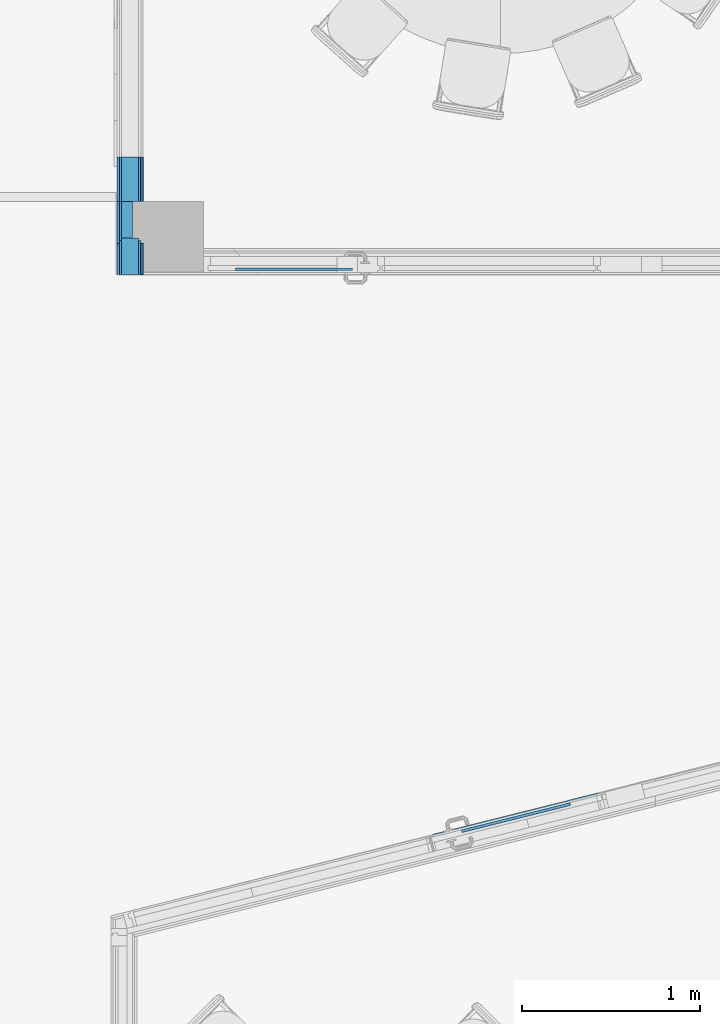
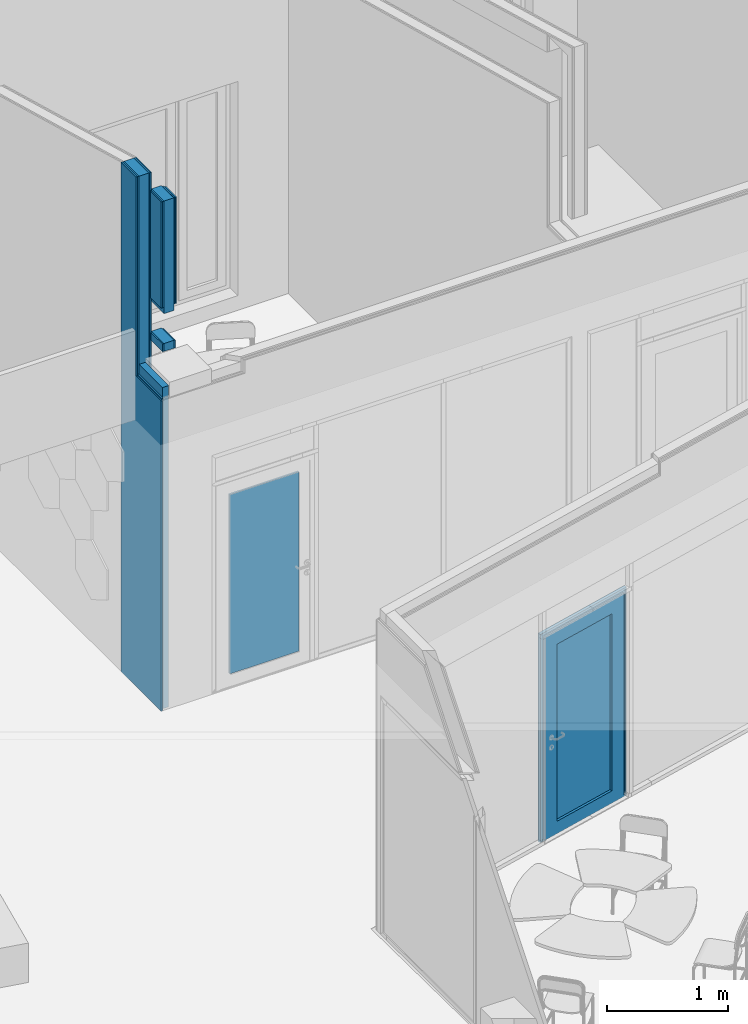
# One storey, part 72 of 153: 8 building element parts, 5 elements without a shape of their own.
"""IFC2X3 building model written with IfcOpenShell, lengths in millimetres."""

from ifc_helpers import new_model, entity, si_unit, converted_unit, derived_unit, money_unit, direction, frame, origin_with_axes, place, context, subcontext, project, spatial, faceted_brep, material, type_object, element, aggregate, save


model = new_model("IFC2X3")

# Units and contexts
model_context = context("Model", 3, precision=0.01, world=origin_with_axes(), true_north=direction((0.0, 1.0)))
body_context = subcontext(model_context, "Body", "Model", "MODEL_VIEW")
ifc_project = project(units=[si_unit("LENGTHUNIT", "METRE", prefix="MILLI"), si_unit("AREAUNIT", "SQUARE_METRE"), si_unit("VOLUMEUNIT", "CUBIC_METRE"), converted_unit("PLANEANGLEUNIT", "DEGREE", entity("IfcPlaneAngleMeasure", 0.0174532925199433), si_unit("PLANEANGLEUNIT", "RADIAN"), dimensions=[0, 0, 0, 0, 0, 0, 0]), money_unit("EUR"), converted_unit("TIMEUNIT", "Year", entity("IfcTimeMeasure", 31557600.0), si_unit("TIMEUNIT", "SECOND"), dimensions=[0, 0, 1, 0, 0, 0, 0]), si_unit("MASSUNIT", "GRAM", prefix="KILO"), si_unit("THERMODYNAMICTEMPERATUREUNIT", "DEGREE_CELSIUS"), si_unit("LUMINOUSINTENSITYUNIT", "LUMEN"), si_unit("ENERGYUNIT", "JOULE", prefix="MEGA"), derived_unit("THERMALCONDUCTANCEUNIT", [(si_unit("POWERUNIT", "WATT"), 1), (si_unit("LENGTHUNIT", "METRE"), -1), (si_unit("THERMODYNAMICTEMPERATUREUNIT", "KELVIN"), -1)]), derived_unit("SPECIFICHEATCAPACITYUNIT", [(si_unit("ENERGYUNIT", "JOULE"), 1), (si_unit("MASSUNIT", "GRAM", prefix="KILO"), -1), (si_unit("THERMODYNAMICTEMPERATUREUNIT", "KELVIN"), -1)]), derived_unit("MASSDENSITYUNIT", [(si_unit("MASSUNIT", "GRAM", prefix="KILO"), 1), (si_unit("VOLUMEUNIT", "CUBIC_METRE"), -1)])], contexts=[model_context])

# Site, building, storey
site_placement = place(None, frame((0.0, 0.0, 8650.0), z_axis=(0.0, 0.0, 1.0), x_axis=(1.0, 0.0, 0.0)))
site = spatial("IfcSite", under=ifc_project, at=site_placement, Name="43301:001:0844", CompositionType="ELEMENT")
building_placement = place(site_placement, origin_with_axes())
building = spatial("IfcBuilding", under=site, at=building_placement, Name="Kuressaare Ametikooli tuulikute mehaanikute õppekorpus", CompositionType="ELEMENT")
storey_placement = place(building_placement, frame((0.0, 0.0, 4100.0), z_axis=(0.0, 0.0, 1.0), x_axis=(1.0, 0.0, 0.0)))
storey = spatial("IfcBuildingStorey", under=building, at=storey_placement, Name="2.korrus", CompositionType="ELEMENT", Elevation=4100.0)

# Wall, building element parts
wall_type = type_object("IfcWallType", Name="SS-2.2 147", PredefinedType="NOTDEFINED")
wall_placement = place(storey_placement, frame((118281.2757303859, 23561.0689239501, 0.0), z_axis=(0.0, 0.0, 1.0), x_axis=(0.0, 1.0, 0.0)))
wall = element("IfcWall", 1, at=wall_placement, inside=storey, type_object=wall_type, Name="Sisesein")
ifc_material_1 = material(Name="Kipsplaat")
building_element_part_1_placement = place(wall_placement, origin_with_axes())
building_element_part_1 = element("IfcBuildingElementPart", 2, at=building_element_part_1_placement, material=ifc_material_1, Name="Kipsplaat", context=body_context, shape_type="Brep", body=[
    faceted_brep([(412.9990432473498, 4.263256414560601e-09, 3589.999999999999), (412.9990432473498, 0.0, 3129.999999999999), (412.999049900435, -13.00000000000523, 3129.999999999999), (412.999049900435, -12.99999999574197, 3589.999999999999), (412.9907151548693, -13.00000000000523, 5135.770356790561), (412.9907071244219, -2.854818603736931e-07, 5135.770356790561), (662.0000000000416, 0.0, 5135.770356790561), (662.0000000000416, 0.0, 0.0), (0.0, 0.0, 0.0), (0.0, -7.219114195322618e-07, 3129.999999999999), (0.0, -13.00000000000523, 3129.999999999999), (0.0, -13.00000000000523, 0.0), (662.0000000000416, -13.00000000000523, 0.0), (662.0000000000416, -13.00000000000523, 5135.770356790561)], [[[0, 1, 2, 3, 4, 5]], [[1, 0, 5, 6, 7, 8, 9]], [[10, 2, 1, 9]], [[2, 10, 11, 12, 13, 4, 3]], [[6, 5, 4, 13]], [[6, 13, 12, 7]], [[7, 12, 11, 8]], [[10, 9, 8, 11]]]),
    faceted_brep([(0.0, -13.00000000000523, 4065.0), (176.9907151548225, -13.00000000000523, 4065.0), (176.9907151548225, -13.00000000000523, 5135.770356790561), (0.0, -13.00000000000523, 5135.770356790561), (176.9907071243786, -1.708713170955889e-07, 4065.0), (0.0, -7.589733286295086e-07, 4065.0), (176.9907071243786, -5.560565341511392e-07, 5135.770356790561), (0.0, -7.589733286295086e-07, 5135.770356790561)], [[[0, 1, 2, 3]], [[4, 1, 0, 5]], [[1, 4, 6, 2]], [[3, 2, 6, 7]], [[5, 0, 3, 7]], [[4, 5, 7, 6]]]),
])
ifc_material_2 = material(Name="Soojustus - Mineraalvill pehme")
building_element_part_2_placement = place(wall_placement, origin_with_axes())
building_element_part_2 = element("IfcBuildingElementPart", 3, at=building_element_part_2_placement, material=ifc_material_2, Name="Soojustus - Mineraalvill pehme", context=body_context, shape_type="Brep", body=[
    faceted_brep([(25.9999999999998, -86.67084111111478, 3240.0), (413.0000000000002, -86.67084111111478, 3240.0), (412.9990565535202, -25.99999999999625, 3240.0), (25.9999999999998, -25.99999999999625, 3240.0), (25.9999999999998, -86.67084111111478, 0.0), (413.0000000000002, -86.67084111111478, 0.0), (413.0000000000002, -120.9999999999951, 0.0), (413.0000000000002, -120.9999999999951, 3240.0), (412.9907818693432, -120.9999999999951, 5135.770356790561), (412.9907231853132, -25.99999999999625, 5135.770356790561), (662.0000000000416, -25.99999999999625, 5135.770356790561), (662.0000000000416, -25.99999999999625, 0.0), (25.9999999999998, -25.99999999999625, 0.0), (662.0000000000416, -120.9999999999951, 0.0), (662.0000000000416, -120.9999999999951, 5135.770356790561)], [[[0, 1, 2, 3]], [[1, 0, 4, 5]], [[6, 7, 8, 9, 2, 1, 5]], [[3, 2, 9, 10, 11, 12]], [[4, 0, 3, 12]], [[5, 4, 12, 11, 13, 6]], [[7, 6, 13, 14, 8]], [[14, 10, 9, 8]], [[11, 10, 14, 13]]]),
    faceted_brep([(206.9907231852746, -25.99999999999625, 3699.999999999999), (206.9907818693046, -120.9999999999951, 3699.999999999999), (206.9907818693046, -120.9999999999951, 3619.999999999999), (206.9907231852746, -25.99999999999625, 3619.999999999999), (0.0, -120.9999999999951, 3699.999999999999), (0.0, -25.99999999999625, 3699.999999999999), (0.0, -120.9999999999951, 3619.999999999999), (0.0, -25.99999999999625, 3619.999999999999)], [[[0, 1, 2, 3]], [[4, 1, 0, 5]], [[1, 4, 6, 2]], [[3, 2, 6, 7]], [[5, 0, 3, 7]], [[4, 5, 7, 6]]]),
    faceted_brep([(0.0, -120.9999999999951, 4000.0), (206.9907818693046, -120.9999999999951, 4000.0), (206.9907818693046, -120.9999999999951, 5135.770356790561), (0.0, -120.9999999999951, 5135.770356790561), (206.9907231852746, -25.99999999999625, 4000.0), (0.0, -25.99999999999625, 4000.0), (206.9907231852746, -25.99999999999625, 5135.770356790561), (0.0, -25.99999999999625, 5135.770356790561)], [[[0, 1, 2, 3]], [[4, 1, 0, 5]], [[1, 4, 6, 2]], [[3, 2, 6, 7]], [[5, 0, 3, 7]], [[4, 5, 7, 6]]]),
])
building_element_part_3_placement = place(wall_placement, origin_with_axes())
building_element_part_3 = element("IfcBuildingElementPart", 4, at=building_element_part_3_placement, material=ifc_material_1, Name="Kipsplaat", context=body_context, shape_type="Brep", body=[
    faceted_brep([(413.0000000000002, -120.9999999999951, 0.0), (413.0000000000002, -120.9999999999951, 3145.0), (412.9907818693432, -120.9999999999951, 5135.770356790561), (662.0000000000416, -120.9999999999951, 5135.770356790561), (662.0000000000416, -120.9999999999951, 0.0), (413.0000000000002, -134.0000000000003, 0.0), (413.0000000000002, -134.0000000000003, 3145.0), (412.9907898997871, -134.0000000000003, 5135.770356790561), (662.0000000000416, -134.0000000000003, 5135.770356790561), (662.0000000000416, -134.0000000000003, 0.0)], [[[0, 1, 2, 3, 4]], [[5, 6, 7, 2, 1, 0]], [[8, 3, 2, 7]], [[4, 3, 8, 9]], [[5, 0, 4, 9]], [[6, 5, 9, 8, 7]]]),
    faceted_brep([(191.9907818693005, -120.9999999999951, 3699.999999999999), (191.9907898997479, -134.0000000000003, 3699.999999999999), (191.9907898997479, -134.0000000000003, 3619.999999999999), (191.9907818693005, -120.9999999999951, 3619.999999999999), (0.0, -134.0000000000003, 3699.999999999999), (0.0, -120.9999999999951, 3699.999999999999), (0.0, -134.0000000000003, 3619.999999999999), (0.0, -120.9999999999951, 3619.999999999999)], [[[0, 1, 2, 3]], [[4, 1, 0, 5]], [[1, 4, 6, 2]], [[3, 2, 6, 7]], [[5, 0, 3, 7]], [[4, 5, 7, 6]]]),
    faceted_brep([(0.0, -134.0000000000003, 4065.0), (191.9907898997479, -134.0000000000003, 4065.0), (191.9907898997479, -134.0000000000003, 5135.770356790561), (0.0, -134.0000000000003, 5135.770356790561), (191.9907818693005, -120.9999999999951, 4065.0), (0.0, -120.9999999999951, 4065.0), (191.9907818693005, -120.9999999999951, 5135.770356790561), (0.0, -120.9999999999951, 5135.770356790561)], [[[0, 1, 2, 3]], [[4, 1, 0, 5]], [[1, 4, 6, 2]], [[3, 2, 6, 7]], [[5, 0, 3, 7]], [[4, 5, 7, 6]]]),
])
building_element_part_4_placement = place(wall_placement, origin_with_axes())
building_element_part_4 = element("IfcBuildingElementPart", 5, at=building_element_part_4_placement, material=ifc_material_1, Name="Kipsplaat", context=body_context, shape_type="Brep", body=[
    faceted_brep([(413.0000000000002, -134.0000000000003, 0.0), (413.0000000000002, -134.0000000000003, 3129.999999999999), (412.9907898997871, -134.0000000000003, 5135.770356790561), (662.0000000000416, -134.0000000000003, 5135.770356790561), (662.0000000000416, -134.0000000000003, 0.0), (413.0000000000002, -147.0000000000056, 0.0), (413.0000000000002, -147.0000000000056, 3129.999999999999), (412.9907979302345, -147.0000000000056, 5135.770356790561), (662.0000000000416, -147.0000000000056, 5135.770356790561), (662.0000000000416, -147.0000000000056, 0.0)], [[[0, 1, 2, 3, 4]], [[5, 6, 7, 2, 1, 0]], [[8, 3, 2, 7]], [[4, 3, 8, 9]], [[5, 0, 4, 9]], [[6, 5, 9, 8, 7]]]),
    faceted_brep([(0.0, -147.0000000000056, 4065.0), (176.9907979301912, -147.0000000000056, 4065.0), (176.9907979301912, -147.0000000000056, 5135.770356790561), (0.0, -147.0000000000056, 5135.770356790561), (176.9907898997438, -134.0000000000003, 4065.0), (0.0, -134.0000000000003, 4065.0), (176.9907898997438, -134.0000000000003, 5135.770356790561), (0.0, -134.0000000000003, 5135.770356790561)], [[[0, 1, 2, 3]], [[4, 1, 0, 5]], [[1, 4, 6, 2]], [[3, 2, 6, 7]], [[5, 0, 3, 7]], [[4, 5, 7, 6]]]),
])
building_element_part_5_placement = place(wall_placement, origin_with_axes())
building_element_part_5 = element("IfcBuildingElementPart", 6, at=building_element_part_5_placement, material=ifc_material_1, Name="Kipsplaat", context=body_context, shape_type="Brep", body=[
    faceted_brep([(191.9907151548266, -13.00000000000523, 3699.999999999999), (191.990723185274, -25.99999999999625, 3699.999999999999), (191.990723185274, -25.99999999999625, 3619.999999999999), (191.9907151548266, -13.00000000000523, 3619.999999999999), (0.0, -25.99999999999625, 3699.999999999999), (0.0, -13.00000000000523, 3699.999999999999), (0.0, -25.99999999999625, 3619.999999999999), (0.0, -13.00000000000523, 3619.999999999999)], [[[0, 1, 2, 3]], [[4, 1, 0, 5]], [[1, 4, 6, 2]], [[3, 2, 6, 7]], [[5, 0, 3, 7]], [[4, 5, 7, 6]]]),
    faceted_brep([(412.999049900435, -12.99999999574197, 3589.999999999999), (412.999049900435, -13.00000000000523, 3145.0), (412.9990565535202, -25.99999999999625, 3145.0), (412.9990565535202, -25.99999999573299, 3589.999999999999), (412.9907231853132, -25.99999999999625, 5135.770356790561), (412.9907151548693, -13.00000000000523, 5135.770356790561), (662.0000000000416, -13.00000000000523, 5135.770356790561), (662.0000000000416, -13.00000000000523, 0.0), (13.00000000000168, -13.00000000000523, 0.0), (13.00000000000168, -13.00000000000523, 3145.0), (13.00000000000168, -25.99999999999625, 3145.0), (13.00000000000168, -25.99999999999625, 0.0), (662.0000000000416, -25.99999999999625, 0.0), (662.0000000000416, -25.99999999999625, 5135.770356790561)], [[[0, 1, 2, 3, 4, 5]], [[1, 0, 5, 6, 7, 8, 9]], [[10, 2, 1, 9]], [[2, 10, 11, 12, 13, 4, 3]], [[6, 5, 4, 13]], [[6, 13, 12, 7]], [[12, 11, 8, 7]], [[10, 9, 8, 11]]]),
    faceted_brep([(0.0, -25.99999999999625, 4065.0), (191.990723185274, -25.99999999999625, 4065.0), (191.990723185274, -25.99999999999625, 5135.770356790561), (0.0, -25.99999999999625, 5135.770356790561), (191.9907151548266, -13.00000000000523, 4065.0), (0.0, -13.00000000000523, 4065.0), (191.9907151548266, -13.00000000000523, 5135.770356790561), (0.0, -13.00000000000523, 5135.770356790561)], [[[0, 1, 2, 3]], [[4, 1, 0, 5]], [[1, 4, 6, 2]], [[3, 2, 6, 7]], [[5, 0, 3, 7]], [[4, 5, 7, 6]]]),
])
aggregate(wall, [building_element_part_1, building_element_part_2, building_element_part_3, building_element_part_4, building_element_part_5])

# Curtain wall, door, building element parts
curtain_wall_type = type_object("IfcCurtainWallType", Name="Curtain Wall Type", PredefinedType="NOTDEFINED")
curtain_wall_1_placement = place(storey_placement, frame((120547.3158940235, 20502.05468019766, 0.0), z_axis=(0.0, 0.0, 1.0), x_axis=(1.0, 0.0, 0.0)))
curtain_wall_1 = element("IfcCurtainWall", 7, at=curtain_wall_1_placement, inside=storey, type_object=curtain_wall_type, Name="PKF-2.2")
door_style_1 = type_object("IfcDoorStyle", Name="438 x 2070 x 30", ConstructionType="NOTDEFINED", OperationType="SINGLE_SWING_LEFT", ParameterTakesPrecedence=False, Sizeable=False)
door_1_placement = place(curtain_wall_1_placement, frame((-7.495601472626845, -1.879099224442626, 787.5000130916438), z_axis=(0.0, 0.0, 1.0), x_axis=(-0.9699839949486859, -0.2431687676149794, 0.0)))
door_1 = element("IfcDoor", 8, at=door_1_placement, type_object=door_style_1, Name="PKU10,dB", OverallHeight=2070.0, OverallWidth=959.698)
aggregate(curtain_wall_1, [door_1])
ifc_material_3 = material(Name="Aluminium")
building_element_part_6_placement = place(door_1_placement, origin_with_axes())
building_element_part_6 = element("IfcBuildingElementPart", 9, at=building_element_part_6_placement, material=ifc_material_3, Name="Aluminium", context=body_context, shape_type="Brep", body=[
    faceted_brep([(466.0315475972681, -25.00000000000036, -777.5000039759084), (466.0315475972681, -24.99999999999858, 1267.500036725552), (466.0315475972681, -30.00000000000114, 1267.500036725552), (466.0315475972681, -30.00000000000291, -777.5000039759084), (421.0315475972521, -25.00000000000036, -777.5000039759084), (421.0315475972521, -24.99999999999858, 1222.500036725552), (421.0315475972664, -30.00000000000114, 1222.500036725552), (421.0315475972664, -30.00000000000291, -777.5000039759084)], [[[0, 1, 2, 3]], [[0, 4, 5, 1]], [[1, 5, 6, 2]], [[3, 2, 6, 7]], [[4, 0, 3, 7]], [[5, 4, 7, 6]]]),
    faceted_brep([(-443.6662599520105, -24.99999999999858, 1267.500036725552), (-398.666259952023, -24.99999999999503, 1222.500036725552), (-398.6662599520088, -29.99999999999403, 1222.500036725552), (-443.6662599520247, -30.00000000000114, 1267.500036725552), (466.0315475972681, -24.99999999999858, 1267.500036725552), (421.0315475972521, -24.99999999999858, 1222.500036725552), (421.0315475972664, -30.00000000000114, 1222.500036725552), (466.0315475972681, -30.00000000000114, 1267.500036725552)], [[[0, 1, 2, 3]], [[0, 4, 5, 1]], [[1, 5, 6, 2]], [[3, 2, 6, 7]], [[4, 0, 3, 7]], [[5, 4, 7, 6]]]),
    faceted_brep([(-443.6662599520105, -25.00000000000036, -777.5000039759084), (-398.666259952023, -24.9999999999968, -777.5000039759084), (-398.6662599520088, -29.99999999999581, -777.5000039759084), (-443.6662599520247, -29.99999999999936, -777.5000039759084), (-443.6662599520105, -24.99999999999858, 1267.500036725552), (-398.666259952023, -24.99999999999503, 1222.500036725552), (-398.6662599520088, -29.99999999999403, 1222.500036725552), (-443.6662599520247, -30.00000000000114, 1267.500036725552)], [[[0, 1, 2, 3]], [[0, 4, 5, 1]], [[1, 5, 6, 2]], [[3, 2, 6, 7]], [[4, 0, 3, 7]], [[5, 4, 7, 6]]]),
    faceted_brep([(491.0315475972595, 9.999999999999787, -777.5000039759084), (491.0315475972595, 10.00000000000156, 1292.500036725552), (491.0315475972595, -29.99999999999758, 1292.500036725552), (491.0315475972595, -29.99999999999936, -777.5000039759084), (466.0315475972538, 9.999999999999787, -777.5000039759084), (466.0315475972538, 10.00000000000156, 1267.500036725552), (466.0315475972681, -30.00000000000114, 1267.500036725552), (466.0315475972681, -30.00000000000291, -777.5000039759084)], [[[0, 1, 2, 3]], [[0, 4, 5, 1]], [[1, 5, 6, 2]], [[3, 2, 6, 7]], [[4, 0, 3, 7]], [[5, 4, 7, 6]]]),
    faceted_brep([(-468.6662599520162, 10.00000000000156, 1292.500036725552), (-443.6662599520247, 10.00000000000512, 1267.500036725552), (-443.6662599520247, -30.00000000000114, 1267.500036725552), (-468.666259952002, -29.99999999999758, 1292.500036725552), (491.0315475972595, 10.00000000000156, 1292.500036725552), (466.0315475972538, 10.00000000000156, 1267.500036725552), (466.0315475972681, -30.00000000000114, 1267.500036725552), (491.0315475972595, -29.99999999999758, 1292.500036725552)], [[[0, 1, 2, 3]], [[0, 4, 5, 1]], [[1, 5, 6, 2]], [[3, 2, 6, 7]], [[4, 0, 3, 7]], [[5, 4, 7, 6]]]),
    faceted_brep([(-468.6662599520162, 10.00000000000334, -777.5000039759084), (-443.6662599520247, 10.00000000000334, -777.5000039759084), (-443.6662599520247, -29.99999999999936, -777.5000039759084), (-468.666259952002, -29.99999999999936, -777.5000039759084), (-468.6662599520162, 10.00000000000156, 1292.500036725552), (-443.6662599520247, 10.00000000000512, 1267.500036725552), (-443.6662599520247, -30.00000000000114, 1267.500036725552), (-468.666259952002, -29.99999999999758, 1292.500036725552)], [[[0, 1, 2, 3]], [[0, 4, 5, 1]], [[1, 5, 6, 2]], [[3, 2, 6, 7]], [[4, 0, 3, 7]], [[5, 4, 7, 6]]]),
    faceted_brep([(466.0315475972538, 25.00000000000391, -777.5000039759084), (466.0315475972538, 25.00000000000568, 1267.500036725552), (466.0315475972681, -24.99999999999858, 1267.500036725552), (466.0315475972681, -25.00000000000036, -777.5000039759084), (446.0315475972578, 25.00000000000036, -777.5000039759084), (446.0315475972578, 25.00000000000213, 1247.500036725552), (446.0315475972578, -24.99999999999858, 1247.500036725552), (446.0315475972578, -25.00000000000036, -777.5000039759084)], [[[0, 1, 2, 3]], [[0, 4, 5, 1]], [[1, 5, 6, 2]], [[3, 2, 6, 7]], [[4, 0, 3, 7]], [[5, 4, 7, 6]]]),
    faceted_brep([(-443.6662599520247, 25.00000000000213, 1267.500036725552), (-423.6662599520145, 25.00000000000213, 1247.500036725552), (-423.6662599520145, -24.99999999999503, 1247.500036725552), (-443.6662599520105, -24.99999999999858, 1267.500036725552), (466.0315475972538, 25.00000000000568, 1267.500036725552), (446.0315475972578, 25.00000000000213, 1247.500036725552), (446.0315475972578, -24.99999999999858, 1247.500036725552), (466.0315475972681, -24.99999999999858, 1267.500036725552)], [[[0, 1, 2, 3]], [[0, 4, 5, 1]], [[1, 5, 6, 2]], [[3, 2, 6, 7]], [[4, 0, 3, 7]], [[5, 4, 7, 6]]]),
    faceted_brep([(-443.6662599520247, 25.00000000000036, -777.5000039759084), (-423.6662599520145, 25.00000000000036, -777.5000039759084), (-423.6662599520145, -24.9999999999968, -777.5000039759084), (-443.6662599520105, -25.00000000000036, -777.5000039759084), (-443.6662599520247, 25.00000000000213, 1267.500036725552), (-423.6662599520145, 25.00000000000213, 1247.500036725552), (-423.6662599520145, -24.99999999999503, 1247.500036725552), (-443.6662599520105, -24.99999999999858, 1267.500036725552)], [[[0, 1, 2, 3]], [[0, 4, 5, 1]], [[1, 5, 6, 2]], [[3, 2, 6, 7]], [[4, 0, 3, 7]], [[5, 4, 7, 6]]]),
    faceted_brep([(-483.6662423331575, 14.99999999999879, -792.5000130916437), (506.0315278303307, 14.99999999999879, -792.5000130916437), (506.0315278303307, -14.99999999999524, -792.5000130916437), (-483.6662423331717, -14.99999999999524, -792.5000130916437), (-468.666259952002, 14.99999999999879, -777.5000039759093), (491.0315475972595, 14.99999999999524, -777.5000039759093), (491.0315475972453, -14.99999999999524, -777.5000039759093), (-468.6662599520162, -14.99999999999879, -777.5000039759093)], [[[0, 1, 2, 3]], [[0, 4, 5, 1]], [[1, 5, 6, 2]], [[3, 2, 6, 7]], [[4, 0, 3, 7]], [[5, 4, 7, 6]]]),
    faceted_brep([(506.0315278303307, 14.99999999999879, -792.5000130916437), (506.0315278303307, 15.00000000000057, 1307.500019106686), (506.0315278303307, -14.99999999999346, 1307.500019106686), (506.0315278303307, -14.99999999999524, -792.5000130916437), (491.0315475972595, 14.99999999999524, -777.5000039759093), (491.0315475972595, 14.99999999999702, 1292.500036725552), (491.0315475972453, -14.99999999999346, 1292.500036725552), (491.0315475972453, -14.99999999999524, -777.5000039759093)], [[[0, 1, 2, 3]], [[0, 4, 5, 1]], [[1, 5, 6, 2]], [[3, 2, 6, 7]], [[4, 0, 3, 7]], [[5, 4, 7, 6]]]),
    faceted_brep([(506.0315278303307, 15.00000000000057, 1307.500019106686), (-483.6662423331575, 15.00000000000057, 1307.500019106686), (-483.6662423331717, -14.99999999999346, 1307.500019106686), (506.0315278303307, -14.99999999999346, 1307.500019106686), (491.0315475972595, 14.99999999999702, 1292.500036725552), (-468.666259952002, 15.00000000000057, 1292.500036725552), (-468.6662599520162, -14.99999999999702, 1292.500036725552), (491.0315475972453, -14.99999999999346, 1292.500036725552)], [[[0, 1, 2, 3]], [[0, 4, 5, 1]], [[1, 5, 6, 2]], [[3, 2, 6, 7]], [[4, 0, 3, 7]], [[5, 4, 7, 6]]]),
    faceted_brep([(-483.6662423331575, 15.00000000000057, 1307.500019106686), (-483.6662423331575, 14.99999999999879, -792.5000130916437), (-483.6662423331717, -14.99999999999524, -792.5000130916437), (-483.6662423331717, -14.99999999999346, 1307.500019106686), (-468.666259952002, 15.00000000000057, 1292.500036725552), (-468.666259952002, 14.99999999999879, -777.5000039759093), (-468.6662599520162, -14.99999999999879, -777.5000039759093), (-468.6662599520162, -14.99999999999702, 1292.500036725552)], [[[0, 1, 2, 3]], [[0, 4, 5, 1]], [[1, 5, 6, 2]], [[3, 2, 6, 7]], [[4, 0, 3, 7]], [[5, 4, 7, 6]]]),
    faceted_brep([(-303.6662599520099, -24.9999999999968, -657.5000039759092), (-303.6662599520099, 25.00000000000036, -657.5000039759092), (-303.6662599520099, 25.00000000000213, 1127.500036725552), (-303.6662599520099, -24.99999999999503, 1127.500036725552), (-423.6662599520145, -24.9999999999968, -777.5000039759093), (-423.6662599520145, 25.00000000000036, -777.5000039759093), (-423.6662599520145, 25.00000000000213, 1247.500036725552), (-423.6662599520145, -24.99999999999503, 1247.500036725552)], [[[0, 1, 2, 3]], [[4, 5, 1, 0]], [[1, 5, 6, 2]], [[3, 2, 6, 7]], [[0, 3, 7, 4]], [[7, 6, 5, 4]]]),
    faceted_brep([(446.0315475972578, -25.00000000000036, -777.5000039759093), (446.0315475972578, 25.00000000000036, -777.5000039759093), (446.0315475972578, 25.00000000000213, 1247.500036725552), (446.0315475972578, -24.99999999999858, 1247.500036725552), (326.0315475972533, -25.00000000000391, -657.5000039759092), (326.0315475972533, 25.00000000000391, -657.5000039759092), (326.0315475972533, 25.00000000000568, 1127.500036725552), (326.0315475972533, -25.00000000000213, 1127.500036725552)], [[[0, 1, 2, 3]], [[4, 5, 1, 0]], [[1, 5, 6, 2]], [[3, 2, 6, 7]], [[0, 3, 7, 4]], [[7, 6, 5, 4]]]),
    faceted_brep([(446.0315475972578, -25.00000000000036, -777.5000039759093), (446.0315475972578, 25.00000000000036, -777.5000039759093), (326.0315475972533, 25.00000000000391, -657.5000039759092), (326.0315475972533, -25.00000000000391, -657.5000039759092), (-423.6662599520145, -24.9999999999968, -777.5000039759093), (-423.6662599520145, 25.00000000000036, -777.5000039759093), (-303.6662599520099, 25.00000000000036, -657.5000039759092), (-303.6662599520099, -24.9999999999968, -657.5000039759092)], [[[0, 1, 2, 3]], [[4, 5, 1, 0]], [[1, 5, 6, 2]], [[3, 2, 6, 7]], [[0, 3, 7, 4]], [[7, 6, 5, 4]]]),
    faceted_brep([(-423.6662599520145, -24.99999999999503, 1247.500036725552), (-423.6662599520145, 25.00000000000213, 1247.500036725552), (-303.6662599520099, 25.00000000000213, 1127.500036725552), (-303.6662599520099, -24.99999999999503, 1127.500036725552), (446.0315475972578, -24.99999999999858, 1247.500036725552), (446.0315475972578, 25.00000000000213, 1247.500036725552), (326.0315475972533, 25.00000000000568, 1127.500036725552), (326.0315475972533, -25.00000000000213, 1127.500036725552)], [[[0, 1, 2, 3]], [[4, 5, 1, 0]], [[1, 5, 6, 2]], [[3, 2, 6, 7]], [[0, 3, 7, 4]], [[7, 6, 5, 4]]]),
])
ifc_material_4 = material(Name="Klaas")
building_element_part_7_placement = place(door_1_placement, origin_with_axes())
building_element_part_7 = element("IfcBuildingElementPart", 10, at=building_element_part_7_placement, material=ifc_material_4, Name="Klaas", context=body_context, shape_type="Brep", body=[
    faceted_brep([(-303.6662599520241, -14.99999999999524, -657.5000039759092), (-303.6662599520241, 0.9999999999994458, -657.5000039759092), (326.0315475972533, 0.9999999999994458, -657.5000039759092), (326.0315475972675, -15.00000000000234, -657.5000039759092), (-303.6662599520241, -14.99999999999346, 1127.500036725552), (-303.6662599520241, 1.000000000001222, 1127.500036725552), (326.0315475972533, 1.000000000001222, 1127.500036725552), (326.0315475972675, -15.00000000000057, 1127.500036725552)], [[[0, 1, 2, 3]], [[4, 5, 1, 0]], [[1, 5, 6, 2]], [[3, 2, 6, 7]], [[0, 3, 7, 4]], [[7, 6, 5, 4]]]),
])
aggregate(door_1, [building_element_part_6, building_element_part_7])

# Curtain wall, door, building element part
curtain_wall_2_placement = place(storey_placement, frame((119422.8886145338, 23599.06892395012, 7.49398259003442e-05), z_axis=(0.0, 0.0, 1.0), x_axis=(1.0, 0.0, 0.0)))
curtain_wall_2 = element("IfcCurtainWall", 11, at=curtain_wall_2_placement, inside=storey, type_object=curtain_wall_type, Name="PKF-1.1")
door_style_2 = type_object("IfcDoorStyle", Name="728 x 2095 x 30", ConstructionType="NOTDEFINED", OperationType="SINGLE_SWING_LEFT", ParameterTakesPrecedence=False, Sizeable=False)
door_2_placement = place(curtain_wall_2_placement, frame((0.0, 0.0, 1049.999923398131), z_axis=(0.0, 0.0, 1.0), x_axis=(1.0, 0.0, 0.0)))
door_2 = element("IfcDoor", 12, at=door_2_placement, type_object=door_style_2, Name="PKU10,dB", OverallHeight=2070.0, OverallWidth=940.0)
aggregate(curtain_wall_2, [door_2])
building_element_part_8_placement = place(door_2_placement, origin_with_axes())
building_element_part_8 = element("IfcBuildingElementPart", 13, at=building_element_part_8_placement, material=ifc_material_4, Name="Klaas", context=body_context, shape_type="Brep", body=[
    faceted_brep([(-474.9420342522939, -14.99999999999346, -919.999989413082), (-474.9420342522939, 1.000000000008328, -919.999989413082), (185.0579597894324, 1.00000000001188, -919.999989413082), (185.0579597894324, -14.99999999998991, -919.999989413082), (-474.9420342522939, -14.99999999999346, 890.000011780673), (-474.9420342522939, 1.000000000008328, 890.000011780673), (185.0579597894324, 1.00000000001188, 890.000011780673), (185.0579597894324, -14.99999999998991, 890.000011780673)], [[[0, 1, 2, 3]], [[4, 5, 1, 0]], [[1, 5, 6, 2]], [[3, 2, 6, 7]], [[0, 3, 7, 4]], [[7, 6, 5, 4]]]),
])
aggregate(door_2, [building_element_part_8])

save(model, "model.ifc")
